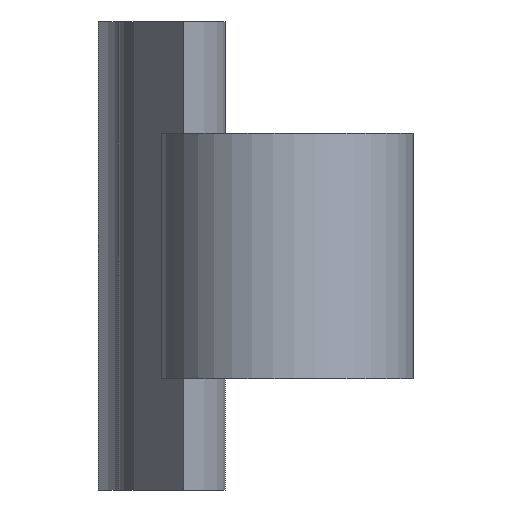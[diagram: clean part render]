
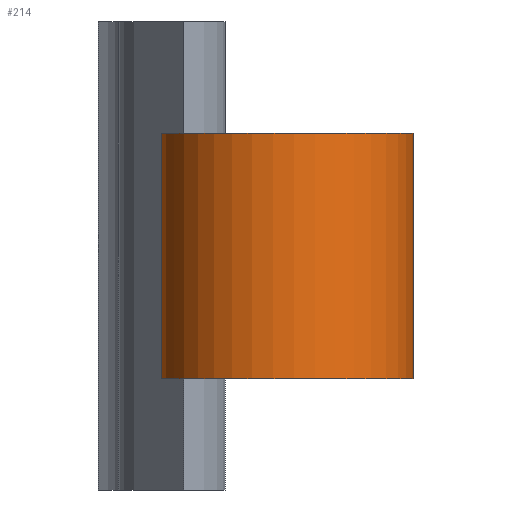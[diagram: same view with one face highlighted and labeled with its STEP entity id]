
A CAD part, left-side view. The second image highlights one B-rep face of the part: STEP entity #214.
In plain terms, the highlighted cylindrical face has radius 28.298 mm (diameter 56.595 mm), a partial arc.
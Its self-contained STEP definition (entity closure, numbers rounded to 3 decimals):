
#7 = DIRECTION ( 'NONE',  ( 0., 0., -1. ) ) ;
#17 = CARTESIAN_POINT ( 'NONE',  ( -33.268, 37.457, -27.5 ) ) ;
#20 = DIRECTION ( 'NONE',  ( 0., 0., -1. ) ) ;
#24 = LINE ( 'NONE', #212, #244 ) ;
#40 = CARTESIAN_POINT ( 'NONE',  ( -33.268, 37.457, -27.5 ) ) ;
#53 = VERTEX_POINT ( 'NONE', #265 ) ;
#64 = CYLINDRICAL_SURFACE ( 'NONE', #366, 28.298 ) ;
#77 = CIRCLE ( 'NONE', #130, 28.298 ) ;
#98 = VERTEX_POINT ( 'NONE', #40 ) ;
#105 = VERTEX_POINT ( 'NONE', #117 ) ;
#113 = ORIENTED_EDGE ( 'NONE', *, *, #271, .T. ) ;
#117 = CARTESIAN_POINT ( 'NONE',  ( -33.268, 37.457, 27.5 ) ) ;
#130 = AXIS2_PLACEMENT_3D ( 'NONE', #339, #7, #150 ) ;
#139 = VERTEX_POINT ( 'NONE', #358 ) ;
#147 = FACE_OUTER_BOUND ( 'NONE', #353, .T. ) ;
#150 = DIRECTION ( 'NONE',  ( -1., 0., 0. ) ) ;
#176 = DIRECTION ( 'NONE',  ( 0., 0., 1. ) ) ;
#192 = EDGE_CURVE ( 'NONE', #139, #98, #77, .T. ) ;
#204 = CARTESIAN_POINT ( 'NONE',  ( -60.042, 28.298, -27.5 ) ) ;
#212 = CARTESIAN_POINT ( 'NONE',  ( -60.042, 0., -27.5 ) ) ;
#214 = ADVANCED_FACE ( 'NONE', ( #147 ), #64, .F. ) ;
#216 = CIRCLE ( 'NONE', #338, 28.298 ) ;
#227 = ORIENTED_EDGE ( 'NONE', *, *, #192, .T. ) ;
#242 = EDGE_CURVE ( 'NONE', #53, #105, #216, .T. ) ;
#244 = VECTOR ( 'NONE', #245, 1000. ) ;
#245 = DIRECTION ( 'NONE',  ( 0., 0., 1. ) ) ;
#251 = CARTESIAN_POINT ( 'NONE',  ( -60.042, 28.298, 27.5 ) ) ;
#255 = ORIENTED_EDGE ( 'NONE', *, *, #345, .F. ) ;
#265 = CARTESIAN_POINT ( 'NONE',  ( -60.042, 0., 27.5 ) ) ;
#271 = EDGE_CURVE ( 'NONE', #98, #105, #371, .T. ) ;
#293 = VECTOR ( 'NONE', #316, 1000. ) ;
#303 = DIRECTION ( 'NONE',  ( 1., 0., 0. ) ) ;
#313 = DIRECTION ( 'NONE',  ( -1., 0., 0. ) ) ;
#314 = ORIENTED_EDGE ( 'NONE', *, *, #242, .F. ) ;
#316 = DIRECTION ( 'NONE',  ( 0., 0., 1. ) ) ;
#338 = AXIS2_PLACEMENT_3D ( 'NONE', #251, #20, #313 ) ;
#339 = CARTESIAN_POINT ( 'NONE',  ( -60.042, 28.298, -27.5 ) ) ;
#345 = EDGE_CURVE ( 'NONE', #139, #53, #24, .T. ) ;
#353 = EDGE_LOOP ( 'NONE', ( #314, #255, #227, #113 ) ) ;
#358 = CARTESIAN_POINT ( 'NONE',  ( -60.042, 0., -27.5 ) ) ;
#366 = AXIS2_PLACEMENT_3D ( 'NONE', #204, #176, #303 ) ;
#371 = LINE ( 'NONE', #17, #293 ) ;
